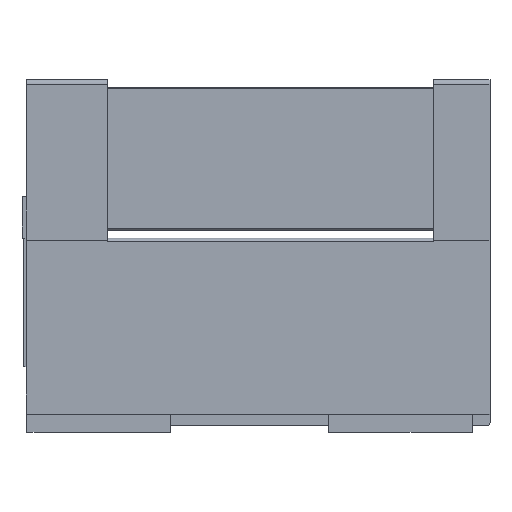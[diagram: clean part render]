
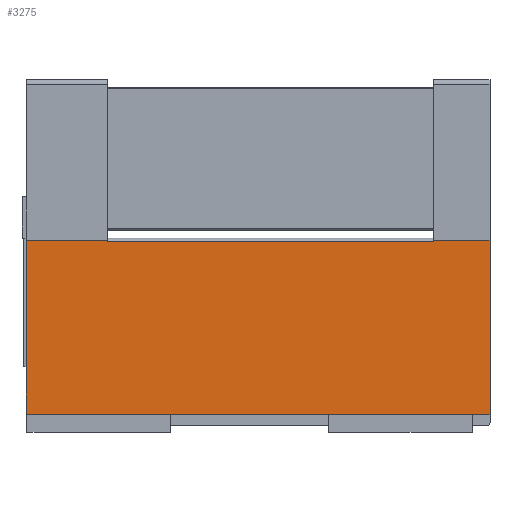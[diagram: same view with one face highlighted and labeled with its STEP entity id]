
A CAD part, left-side view. The second image highlights one B-rep face of the part: STEP entity #3275.
In plain terms, the highlighted planar face has unit normal (-1, 0, 0).
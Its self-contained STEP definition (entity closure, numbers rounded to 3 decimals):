
#49 = VECTOR ( 'NONE', #2635, 1000. ) ;
#56 = LINE ( 'NONE', #2639, #49 ) ;
#86 = VECTOR ( 'NONE', #2690, 1000. ) ;
#95 = LINE ( 'NONE', #2697, #86 ) ;
#271 = FACE_OUTER_BOUND ( 'NONE', #376, .T. ) ;
#376 = EDGE_LOOP ( 'NONE', ( #753, #752, #751, #750, #749, #748, #747, #746 ) ) ;
#746 = ORIENTED_EDGE ( 'NONE', *, *, #4011, .F. ) ;
#747 = ORIENTED_EDGE ( 'NONE', *, *, #4069, .F. ) ;
#748 = ORIENTED_EDGE ( 'NONE', *, *, #3686, .F. ) ;
#749 = ORIENTED_EDGE ( 'NONE', *, *, #3730, .T. ) ;
#750 = ORIENTED_EDGE ( 'NONE', *, *, #4000, .T. ) ;
#751 = ORIENTED_EDGE ( 'NONE', *, *, #3505, .F. ) ;
#752 = ORIENTED_EDGE ( 'NONE', *, *, #3656, .F. ) ;
#753 = ORIENTED_EDGE ( 'NONE', *, *, #3486, .F. ) ;
#1432 = CARTESIAN_POINT ( 'NONE',  ( -4.1, 239.3, -28.503 ) ) ;
#1436 = DIRECTION ( 'NONE',  ( 0., 0., -1. ) ) ;
#1467 = CARTESIAN_POINT ( 'NONE',  ( -4.1, 0., -28.503 ) ) ;
#1470 = DIRECTION ( 'NONE',  ( 0., 0., -1. ) ) ;
#1563 = CARTESIAN_POINT ( 'NONE',  ( -4.1, 290., -28.503 ) ) ;
#1564 = DIRECTION ( 'NONE',  ( 0., -1., 0. ) ) ;
#1934 = CARTESIAN_POINT ( 'NONE',  ( -4.1, 290., 78.498 ) ) ;
#1935 = DIRECTION ( 'NONE',  ( 0., 0., -1. ) ) ;
#1958 = CARTESIAN_POINT ( 'NONE',  ( -4.1, 35.3, -28.503 ) ) ;
#1959 = DIRECTION ( 'NONE',  ( 0., 0., 1. ) ) ;
#2041 = CARTESIAN_POINT ( 'NONE',  ( -4.1, 290., 80.248 ) ) ;
#2042 = DIRECTION ( 'NONE',  ( 0., -1., 0. ) ) ;
#2132 = CARTESIAN_POINT ( 'NONE',  ( -4.1, 239.3, 79.266 ) ) ;
#2134 = CARTESIAN_POINT ( 'NONE',  ( -4.1, 35.3, 79.266 ) ) ;
#2143 = CARTESIAN_POINT ( 'NONE',  ( -4.1, 239.3, 80.248 ) ) ;
#2145 = CARTESIAN_POINT ( 'NONE',  ( -4.1, 0., -28.503 ) ) ;
#2192 = CARTESIAN_POINT ( 'NONE',  ( -4.1, 290., -28.503 ) ) ;
#2207 = CARTESIAN_POINT ( 'NONE',  ( -4.1, 290., 80.248 ) ) ;
#2254 = CARTESIAN_POINT ( 'NONE',  ( -4.1, 35.3, 80.248 ) ) ;
#2284 = CARTESIAN_POINT ( 'NONE',  ( -4.1, 0., 80.248 ) ) ;
#2394 = DIRECTION ( 'NONE',  ( 0., 0., -1. ) ) ;
#2397 = DIRECTION ( 'NONE',  ( 1., 0., 0. ) ) ;
#2405 = PLANE ( 'NONE',  #3755 ) ;
#2406 = CARTESIAN_POINT ( 'NONE',  ( -4.1, 290., -28.503 ) ) ;
#2635 = DIRECTION ( 'NONE',  ( 0., -1., 0. ) ) ;
#2639 = CARTESIAN_POINT ( 'NONE',  ( -4.1, 290., 80.248 ) ) ;
#2690 = DIRECTION ( 'NONE',  ( 0., -1., 0. ) ) ;
#2697 = CARTESIAN_POINT ( 'NONE',  ( -4.1, 395., 79.266 ) ) ;
#3275 = ADVANCED_FACE ( 'NONE', ( #271 ), #2405, .F. ) ;
#3486 = EDGE_CURVE ( 'NONE', #4866, #4868, #95, .T. ) ;
#3505 = EDGE_CURVE ( 'NONE', #4941, #4877, #56, .T. ) ;
#3656 = EDGE_CURVE ( 'NONE', #4877, #4866, #4481, .T. ) ;
#3686 = EDGE_CURVE ( 'NONE', #5018, #4879, #4777, .T. ) ;
#3730 = EDGE_CURVE ( 'NONE', #4926, #4879, #4642, .T. ) ;
#3755 = AXIS2_PLACEMENT_3D ( 'NONE', #2406, #2397, #2394 ) ;
#4000 = EDGE_CURVE ( 'NONE', #4941, #4926, #4196, .T. ) ;
#4011 = EDGE_CURVE ( 'NONE', #4868, #4988, #4175, .T. ) ;
#4069 = EDGE_CURVE ( 'NONE', #4988, #5018, #4102, .T. ) ;
#4101 = VECTOR ( 'NONE', #2042, 1000. ) ;
#4102 = LINE ( 'NONE', #2041, #4101 ) ;
#4174 = VECTOR ( 'NONE', #1959, 1000. ) ;
#4175 = LINE ( 'NONE', #1958, #4174 ) ;
#4195 = VECTOR ( 'NONE', #1935, 1000. ) ;
#4196 = LINE ( 'NONE', #1934, #4195 ) ;
#4481 = LINE ( 'NONE', #1432, #4502 ) ;
#4502 = VECTOR ( 'NONE', #1436, 1000. ) ;
#4642 = LINE ( 'NONE', #1563, #4651 ) ;
#4651 = VECTOR ( 'NONE', #1564, 1000. ) ;
#4774 = VECTOR ( 'NONE', #1470, 1000. ) ;
#4777 = LINE ( 'NONE', #1467, #4774 ) ;
#4866 = VERTEX_POINT ( 'NONE', #2132 ) ;
#4868 = VERTEX_POINT ( 'NONE', #2134 ) ;
#4877 = VERTEX_POINT ( 'NONE', #2143 ) ;
#4879 = VERTEX_POINT ( 'NONE', #2145 ) ;
#4926 = VERTEX_POINT ( 'NONE', #2192 ) ;
#4941 = VERTEX_POINT ( 'NONE', #2207 ) ;
#4988 = VERTEX_POINT ( 'NONE', #2254 ) ;
#5018 = VERTEX_POINT ( 'NONE', #2284 ) ;
